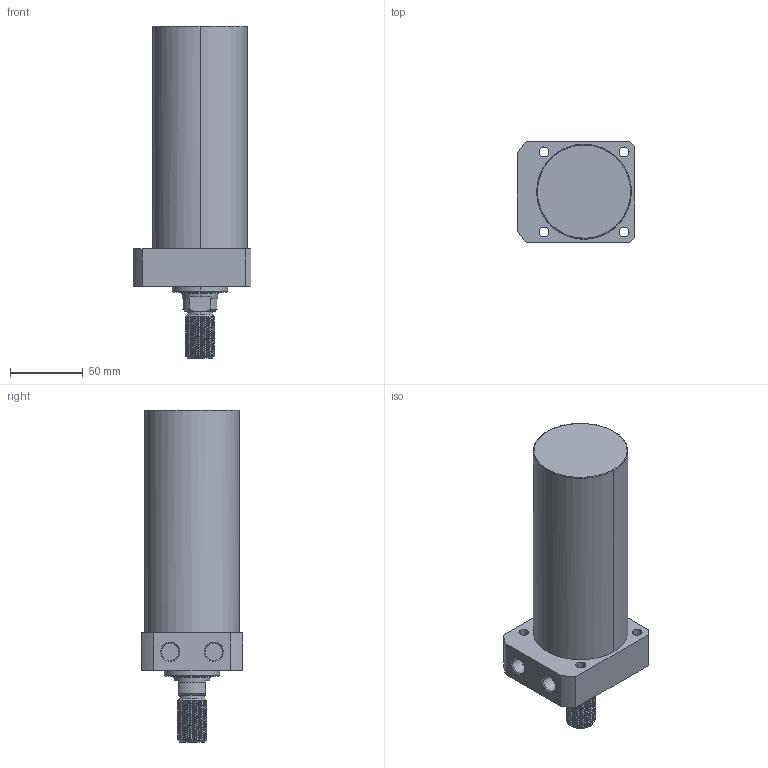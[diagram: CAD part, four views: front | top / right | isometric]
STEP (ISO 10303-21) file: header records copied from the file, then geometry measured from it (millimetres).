
FILE_DESCRIPTION((' '),'2;1');
FILE_NAME( 'TLLR-065CT-120.STEP.stp', '2025-10-24T16:35:01', (' '), ('--- Datakit www.datakit.com---'), ' Datakit CrossCadWare V2024.1 Dec 21 2023', 'Mastercam 2025', ' ');
FILE_SCHEMA(('AUTOMOTIVE_DESIGN { 1 0 10303 214 1 1 1 1 }'));
Length unit declared in the file: millimetre
Products named in the file (1): TLLR-065CT-120
Bounding box: 81 x 70 x 228 mm (x, y, z)
Volume: 664309.6 mm3; surface area: 57638.7 mm2
Topology: 1 solids, 1 shells, 106 faces, 382 edges, 286 vertices
Faces by surface type: cylinder 66, plane 20, cone 16, bspline 2, torus 2
Entity records: 11996 total; most frequent: CARTESIAN_POINT 8738, ORIENTED_EDGE 764, DIRECTION 533, EDGE_CURVE 382, VERTEX_POINT 286, AXIS2_PLACEMENT_3D 215, B_SPLINE_CURVE_WITH_KNOTS 169, EDGE_LOOP 122
